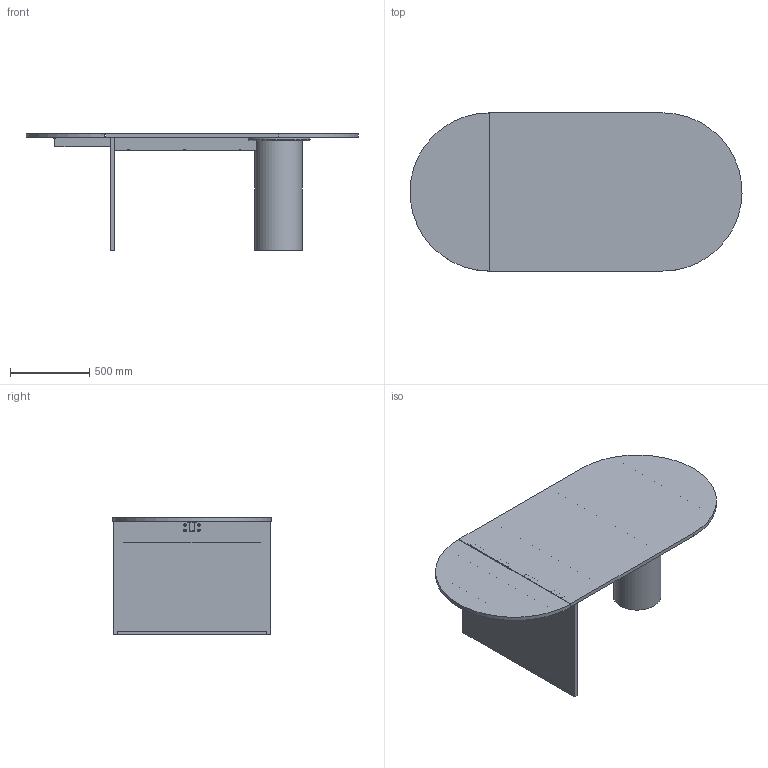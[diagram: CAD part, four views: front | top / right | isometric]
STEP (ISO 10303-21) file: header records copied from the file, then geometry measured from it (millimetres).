
FILE_DESCRIPTION(/* description */ (''),/* implementation_level */ '2;1');
FILE_NAME(/* name */ 'Pylo Dining Table_Ferm Living_3D',/* time_stamp */ '2023-03-20T10:56:29+01:00',/* author */ (''),/* organization */ (''),/* preprocessor_version */ 'ST-DEVELOPER v16.5',/* originating_system */ 'Rhino 7.27',/* authorisation */ '');
FILE_SCHEMA (('CONFIG_CONTROL_DESIGN'));
Length unit declared in the file: millimetre
Products named in the file (1): Document
Bounding box: 2099.86 x 1000 x 740 mm (x, y, z)
Volume: 202005247.9 mm3; surface area: 14490465.6 mm2
Topology: 23 solids, 33 shells, 954 faces, 2167 edges, 1362 vertices
Faces by surface type: cylinder 452, plane 352, bspline 150
Entity records: 28838 total; most frequent: CARTESIAN_POINT 14185, ORIENTED_EDGE 4214, EDGE_CURVE 2123, VERTEX_POINT 1354, EDGE_LOOP 1193, B_SPLINE_CURVE_WITH_KNOTS 1065, ADVANCED_FACE 954, FACE_OUTER_BOUND 954
